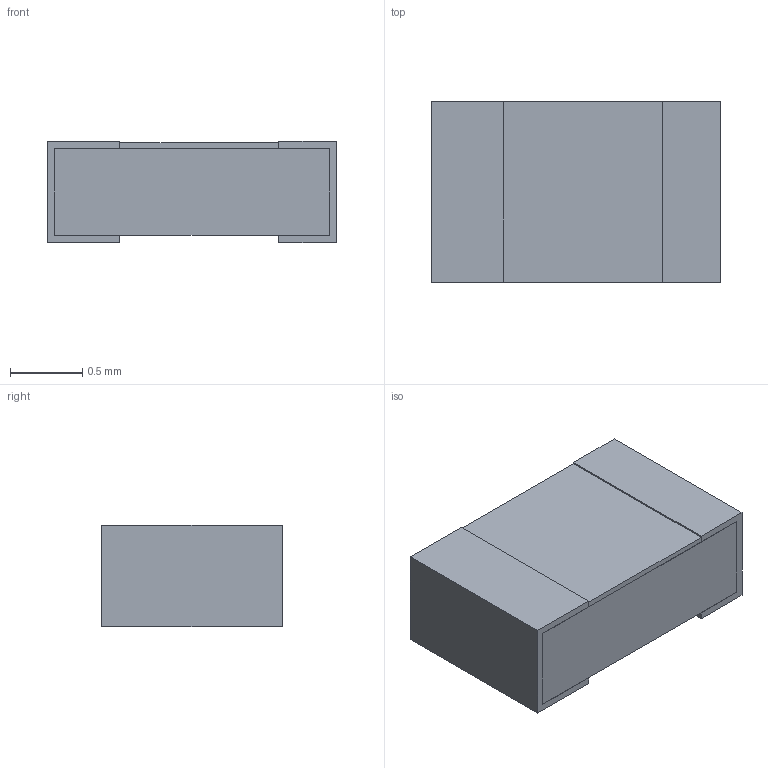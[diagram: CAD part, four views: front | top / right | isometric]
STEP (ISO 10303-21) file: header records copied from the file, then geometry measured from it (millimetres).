
FILE_DESCRIPTION(('STEP AP203'), '1');
FILE_NAME('Ð1-16Ï-0,062', '', ('UNSPECIFIED'), ('UNSPECIFIED'), 'ASCON STEP Converter 1.6', 'ASCON Math Kernel', '');
FILE_SCHEMA(('CONFIG_CONTROL_DESIGN'));
Length unit declared in the file: millimetre
Bounding box: 2 x 1.25 x 0.7 mm (x, y, z)
Volume: 1.7 mm3; surface area: 19.5 mm2
Topology: 4 solids, 4 shells, 32 faces, 72 edges, 48 vertices
Faces by surface type: plane 32
Entity records: 1194 total; most frequent: CARTESIAN_POINT 153, ORIENTED_EDGE 144, DIRECTION 138, EDGE_CURVE 72, LINE 72, VECTOR 72, VERTEX_POINT 48, COLOUR_RGB 36
